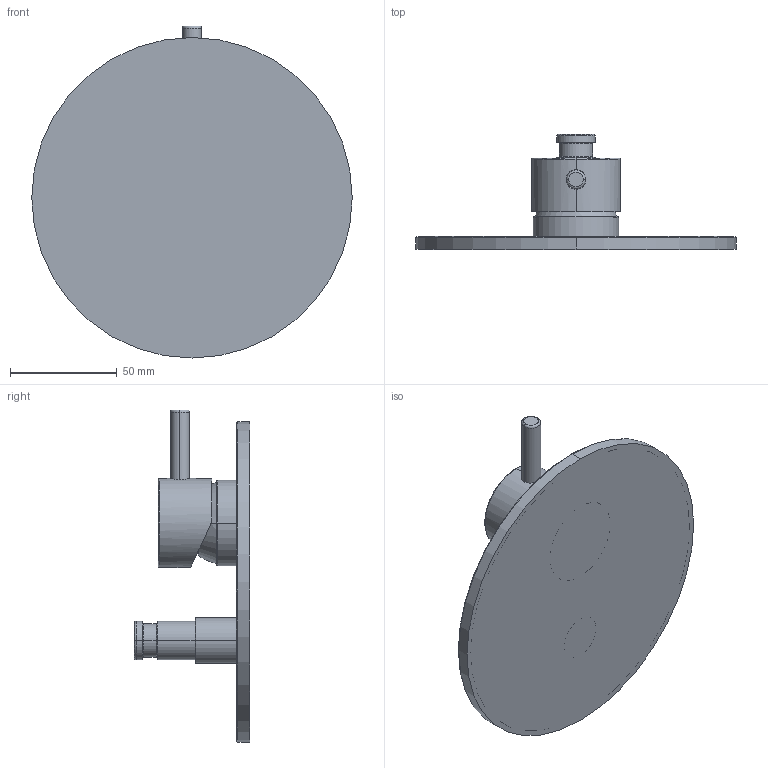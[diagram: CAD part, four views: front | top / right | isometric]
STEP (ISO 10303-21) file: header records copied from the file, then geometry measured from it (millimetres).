
FILE_DESCRIPTION((''),'2;1');
FILE_NAME('12010A','2024-02-15T14:45:07',('carloff'),(''),'CREO PARAMETRIC BY PTC INC, 2022014','CREO PARAMETRIC BY PTC INC, 2022014','');
FILE_SCHEMA(('CONFIG_CONTROL_DESIGN'));
Length unit declared in the file: millimetre
Products named in the file (1): 12010A
Bounding box: 150 x 53.9 x 155.4 mm (x, y, z)
Volume: 110542.7 mm3; surface area: 86660.8 mm2
Topology: 1 solids, 1 shells, 197 faces, 499 edges, 306 vertices
Faces by surface type: cylinder 69, plane 62, cone 21, bspline 19, torus 16, sphere 10
Entity records: 7868 total; most frequent: CARTESIAN_POINT 3203, ORIENTED_EDGE 990, DIRECTION 942, EDGE_CURVE 495, AXIS2_PLACEMENT_3D 369, VERTEX_POINT 306, EDGE_LOOP 213, VECTOR 204
